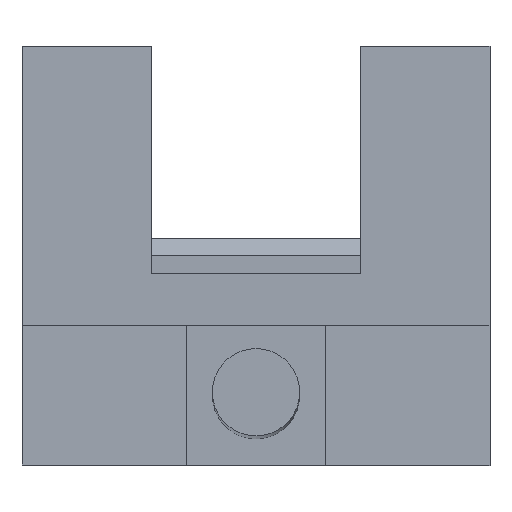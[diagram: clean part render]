
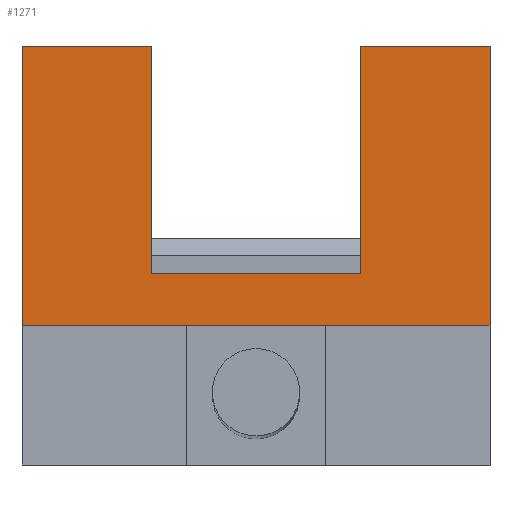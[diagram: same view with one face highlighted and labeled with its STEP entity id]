
A CAD part, top view. The second image highlights one B-rep face of the part: STEP entity #1271.
In plain terms, the highlighted planar face has unit normal (0, 0, 1).
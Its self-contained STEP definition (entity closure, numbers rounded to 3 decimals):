
#6 = ORIENTED_EDGE ( 'NONE', *, *, #1239, .T. ) ;
#7 = ORIENTED_EDGE ( 'NONE', *, *, #1253, .T. ) ;
#8 = ORIENTED_EDGE ( 'NONE', *, *, #1162, .F. ) ;
#9 = ORIENTED_EDGE ( 'NONE', *, *, #1225, .T. ) ;
#11 = ORIENTED_EDGE ( 'NONE', *, *, #1160, .T. ) ;
#14 = ORIENTED_EDGE ( 'NONE', *, *, #1164, .T. ) ;
#20 = ORIENTED_EDGE ( 'NONE', *, *, #1179, .T. ) ;
#65 = ORIENTED_EDGE ( 'NONE', *, *, #1195, .F. ) ;
#118 = VECTOR ( 'NONE', #612, 1000. ) ;
#119 = LINE ( 'NONE', #614, #118 ) ;
#145 = VECTOR ( 'NONE', #646, 1000. ) ;
#155 = LINE ( 'NONE', #652, #145 ) ;
#169 = VECTOR ( 'NONE', #694, 1000. ) ;
#172 = VECTOR ( 'NONE', #697, 1000. ) ;
#173 = LINE ( 'NONE', #696, #169 ) ;
#175 = VECTOR ( 'NONE', #699, 1000. ) ;
#179 = LINE ( 'NONE', #700, #172 ) ;
#187 = LINE ( 'NONE', #702, #175 ) ;
#364 = EDGE_LOOP ( 'NONE', ( #11, #65, #20, #14, #9, #8, #7, #6 ) ) ;
#505 = FACE_OUTER_BOUND ( 'NONE', #364, .T. ) ;
#538 = LINE ( 'NONE', #1387, #539 ) ;
#539 = VECTOR ( 'NONE', #1386, 1000. ) ;
#557 = LINE ( 'NONE', #1355, #558 ) ;
#558 = VECTOR ( 'NONE', #1354, 1000. ) ;
#562 = LINE ( 'NONE', #1311, #566 ) ;
#566 = VECTOR ( 'NONE', #1310, 1000. ) ;
#612 = DIRECTION ( 'NONE',  ( 1., 0., 0. ) ) ;
#614 = CARTESIAN_POINT ( 'NONE',  ( 6., -4.5, 3. ) ) ;
#645 = VERTEX_POINT ( 'NONE', #876 ) ;
#646 = DIRECTION ( 'NONE',  ( 0., 1., 0. ) ) ;
#652 = CARTESIAN_POINT ( 'NONE',  ( 0., -3.5, 3. ) ) ;
#662 = VERTEX_POINT ( 'NONE', #867 ) ;
#694 = DIRECTION ( 'NONE',  ( -1., 0., 0. ) ) ;
#696 = CARTESIAN_POINT ( 'NONE',  ( 0., 2., 3. ) ) ;
#697 = DIRECTION ( 'NONE',  ( -1., 0., 0. ) ) ;
#699 = DIRECTION ( 'NONE',  ( 0., -1., 0. ) ) ;
#700 = CARTESIAN_POINT ( 'NONE',  ( 9.7, -6., 3. ) ) ;
#702 = CARTESIAN_POINT ( 'NONE',  ( 6., 2., 3. ) ) ;
#757 = CARTESIAN_POINT ( 'NONE',  ( 0., 2., 3. ) ) ;
#759 = CARTESIAN_POINT ( 'NONE',  ( 9.7, 2., 3. ) ) ;
#767 = CARTESIAN_POINT ( 'NONE',  ( 9.7, -6., 3. ) ) ;
#770 = CARTESIAN_POINT ( 'NONE',  ( -3.7, -6., 3. ) ) ;
#791 = CARTESIAN_POINT ( 'NONE',  ( 0., -4.5, 3. ) ) ;
#803 = VERTEX_POINT ( 'NONE', #881 ) ;
#814 = VERTEX_POINT ( 'NONE', #791 ) ;
#835 = VERTEX_POINT ( 'NONE', #770 ) ;
#838 = VERTEX_POINT ( 'NONE', #767 ) ;
#846 = VERTEX_POINT ( 'NONE', #759 ) ;
#849 = VERTEX_POINT ( 'NONE', #757 ) ;
#867 = CARTESIAN_POINT ( 'NONE',  ( 6., 2., 3. ) ) ;
#876 = CARTESIAN_POINT ( 'NONE',  ( 6., -4.5, 3. ) ) ;
#881 = CARTESIAN_POINT ( 'NONE',  ( -3.7, 2., 3. ) ) ;
#960 = AXIS2_PLACEMENT_3D ( 'NONE', #1052, #1018, #1015 ) ;
#1015 = DIRECTION ( 'NONE',  ( 1., 0., 0. ) ) ;
#1018 = DIRECTION ( 'NONE',  ( 0., 0., 1. ) ) ;
#1034 = PLANE ( 'NONE',  #960 ) ;
#1052 = CARTESIAN_POINT ( 'NONE',  ( 0., 2., 3. ) ) ;
#1160 = EDGE_CURVE ( 'NONE', #662, #645, #187, .T. ) ;
#1162 = EDGE_CURVE ( 'NONE', #838, #835, #179, .T. ) ;
#1164 = EDGE_CURVE ( 'NONE', #849, #803, #173, .T. ) ;
#1179 = EDGE_CURVE ( 'NONE', #814, #849, #155, .T. ) ;
#1195 = EDGE_CURVE ( 'NONE', #814, #645, #119, .T. ) ;
#1225 = EDGE_CURVE ( 'NONE', #803, #835, #538, .T. ) ;
#1239 = EDGE_CURVE ( 'NONE', #846, #662, #557, .T. ) ;
#1253 = EDGE_CURVE ( 'NONE', #838, #846, #562, .T. ) ;
#1271 = ADVANCED_FACE ( 'NONE', ( #505 ), #1034, .T. ) ;
#1310 = DIRECTION ( 'NONE',  ( 0., 1., 0. ) ) ;
#1311 = CARTESIAN_POINT ( 'NONE',  ( 9.7, -10., 3. ) ) ;
#1354 = DIRECTION ( 'NONE',  ( -1., 0., 0. ) ) ;
#1355 = CARTESIAN_POINT ( 'NONE',  ( 9.7, 2., 3. ) ) ;
#1386 = DIRECTION ( 'NONE',  ( 0., -1., 0. ) ) ;
#1387 = CARTESIAN_POINT ( 'NONE',  ( -3.7, 2., 3. ) ) ;
